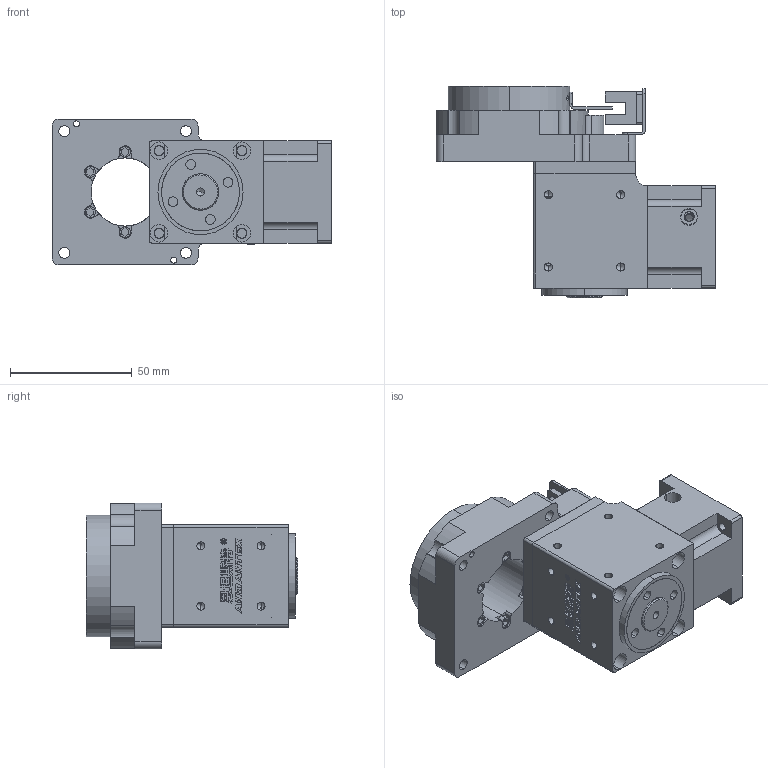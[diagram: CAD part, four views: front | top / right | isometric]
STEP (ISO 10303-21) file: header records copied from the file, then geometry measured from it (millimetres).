
FILE_DESCRIPTION(('Open CASCADE Model'),'2;1');
FILE_NAME('Open CASCADE Shape Model','2026-10-11T02:57:53',('Author'),( 'Open CASCADE'),'Open CASCADE STEP processor 7.8','Open CASCADE 7.8' ,'Unknown');
FILE_SCHEMA(('AUTOMOTIVE_DESIGN { 1 0 10303 214 1 1 1 1 }'));
Length unit declared in the file: millimetre
Products named in the file (3): NTFA60-R-10-PVFD42-B1(配42步进 输入5-22-31-M3); NTFA60-R-10-PVFD42-B1(配42步进 输入5-22-31-M3)-01; NTFA60-R-10-PVFD42-B1(配42步进 输入5-22-31-M3)-02
Assembly tree (2 placements, depth 2):
  NTFA60-R-10-PVFD42-B1(配42步进 输入5-22-31-M3)
    NTFA60-R-10-PVFD42-B1(配42步进 输入5-22-31-M3)-01
    NTFA60-R-10-PVFD42-B1(配42步进 输入5-22-31-M3)-02
Bounding box: 115 x 87 x 60 mm (x, y, z)
Volume: 181764.1 mm3; surface area: 81611.9 mm2
Topology: 14 solids, 22 shells, 1668 faces, 4786 edges, 3120 vertices
Faces by surface type: plane 885, cylinder 416, bspline 275, cone 92
Entity records: 174650 total; most frequent: CARTESIAN_POINT 88506, DIRECTION 13644, ORIENTED_EDGE 9440, PCURVE 9440, DEFINITIONAL_REPRESENTATION 9440, LINE 8143, VECTOR 8143, EDGE_CURVE 4720
